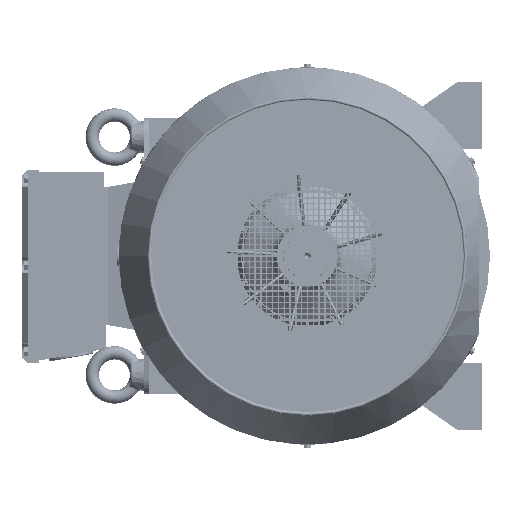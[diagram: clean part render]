
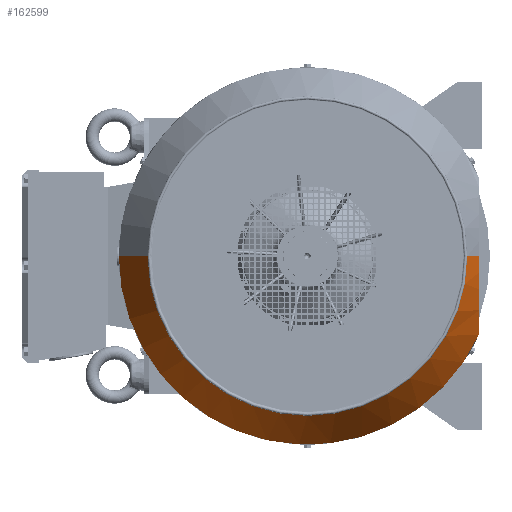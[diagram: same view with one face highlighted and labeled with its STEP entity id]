
A CAD part, left-side view. The second image highlights one B-rep face of the part: STEP entity #162599.
In plain terms, the highlighted conical face has half-angle 30 degrees and reference radius 341 mm.
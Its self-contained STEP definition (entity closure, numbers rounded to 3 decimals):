
#88390 = CARTESIAN_POINT ( 'NONE',  ( 0., 275.627, -310. ) ) ;
#88393 = CARTESIAN_POINT ( 'NONE',  ( 142.06, 221.933, -310. ) ) ;
#88396 = DIRECTION ( 'NONE',  ( 0., 0., -1. ) ) ;
#88398 = DIRECTION ( 'NONE',  ( 0., -1., 0. ) ) ;
#88400 = CARTESIAN_POINT ( 'NONE',  ( 0., 221.933, 0. ) ) ;
#88403 = AXIS2_PLACEMENT_3D ( 'NONE', #88400, #88398, #88396 ) ;
#88405 = CIRCLE ( 'NONE', #88403, 341. ) ;
#88425 = CARTESIAN_POINT ( 'NONE',  ( 0., 221.933, 341. ) ) ;
#88429 = DIRECTION ( 'NONE',  ( 0., -0.866, 0.5 ) ) ;
#88431 = VECTOR ( 'NONE', #88429, 1000. ) ;
#88434 = CARTESIAN_POINT ( 'NONE',  ( 0., 221.933, 341. ) ) ;
#88436 = LINE ( 'NONE', #88434, #88431 ) ;
#88480 = CARTESIAN_POINT ( 'NONE',  ( 0., 312., -289. ) ) ;
#88482 = DIRECTION ( 'NONE',  ( 0., 0., -1. ) ) ;
#88484 = DIRECTION ( 'NONE',  ( 0., -1., 0. ) ) ;
#88487 = CARTESIAN_POINT ( 'NONE',  ( 0., 312., 0. ) ) ;
#88488 = AXIS2_PLACEMENT_3D ( 'NONE', #88487, #88484, #88482 ) ;
#88490 = CIRCLE ( 'NONE', #88488, 289. ) ;
#88543 = CARTESIAN_POINT ( 'NONE',  ( 0., 312., 289. ) ) ;
#88938 = DIRECTION ( 'NONE',  ( 0., 0., -1. ) ) ;
#88940 = DIRECTION ( 'NONE',  ( 0., -1., 0. ) ) ;
#88943 = CARTESIAN_POINT ( 'NONE',  ( 0., 221.933, 0. ) ) ;
#88944 = AXIS2_PLACEMENT_3D ( 'NONE', #88943, #88940, #88938 ) ;
#88955 = CONICAL_SURFACE ( 'NONE', #88944, 341., 0.524 ) ;
#88957 = FACE_OUTER_BOUND ( 'NONE', #162604, .T. ) ;
#89424 = DIRECTION ( 'NONE',  ( 0., -0.866, -0.5 ) ) ;
#89426 = VECTOR ( 'NONE', #89424, 1000. ) ;
#89428 = CARTESIAN_POINT ( 'NONE',  ( 0., 221.933, -341. ) ) ;
#89431 = LINE ( 'NONE', #89428, #89426 ) ;
#89437 = CARTESIAN_POINT ( 'NONE',  ( 0., 275.627, -310. ) ) ;
#89439 = CARTESIAN_POINT ( 'NONE',  ( 12.784, 275.627, -310. ) ) ;
#89441 = CARTESIAN_POINT ( 'NONE',  ( 25.535, 274.252, -310. ) ) ;
#89443 = CARTESIAN_POINT ( 'NONE',  ( 39.842, 271.218, -310. ) ) ;
#89446 = CARTESIAN_POINT ( 'NONE',  ( 41.43, 270.86, -310. ) ) ;
#89448 = CARTESIAN_POINT ( 'NONE',  ( 44.588, 270.108, -310. ) ) ;
#89450 = CARTESIAN_POINT ( 'NONE',  ( 46.16, 269.714, -310. ) ) ;
#89453 = CARTESIAN_POINT ( 'NONE',  ( 50.852, 268.477, -310. ) ) ;
#89455 = CARTESIAN_POINT ( 'NONE',  ( 53.95, 267.581, -310. ) ) ;
#89457 = CARTESIAN_POINT ( 'NONE',  ( 63.164, 264.695, -310. ) ) ;
#89460 = CARTESIAN_POINT ( 'NONE',  ( 69.196, 262.504, -310. ) ) ;
#89463 = CARTESIAN_POINT ( 'NONE',  ( 81.071, 257.659, -310. ) ) ;
#89466 = CARTESIAN_POINT ( 'NONE',  ( 86.913, 255.005, -310. ) ) ;
#89469 = CARTESIAN_POINT ( 'NONE',  ( 98.43, 249.292, -310. ) ) ;
#89471 = CARTESIAN_POINT ( 'NONE',  ( 104.106, 246.232, -310. ) ) ;
#89474 = CARTESIAN_POINT ( 'NONE',  ( 111.108, 242.186, -310. ) ) ;
#89476 = CARTESIAN_POINT ( 'NONE',  ( 112.505, 241.365, -310. ) ) ;
#89478 = CARTESIAN_POINT ( 'NONE',  ( 115.285, 239.704, -310. ) ) ;
#89481 = CARTESIAN_POINT ( 'NONE',  ( 116.667, 238.865, -310. ) ) ;
#89483 = CARTESIAN_POINT ( 'NONE',  ( 120.792, 236.323, -310. ) ) ;
#89486 = CARTESIAN_POINT ( 'NONE',  ( 123.512, 234.595, -310. ) ) ;
#89513 = CARTESIAN_POINT ( 'NONE',  ( 131.592, 229.318, -310. ) ) ;
#89514 = CARTESIAN_POINT ( 'NONE',  ( 136.871, 225.677, -310. ) ) ;
#89518 = CARTESIAN_POINT ( 'NONE',  ( 142.06, 221.933, -310. ) ) ;
#89525 = B_SPLINE_CURVE_WITH_KNOTS ( 'NONE', 3,
 ( #89518, #89514, #89513, #89486, #89483, #89481, #89478, #89476, #89474, #89471, #89469, #89466, #89463, #89460, #89457, #89455, #89453, #89450, #89448, #89446, #89443, #89441, #89439, #89437 ),
 .UNSPECIFIED., .F., .F.,
 ( 4, 2, 2, 2, 2, 2, 2, 2, 2, 2, 2, 4 ),
 ( 0.159, 0.178, 0.188, 0.192, 0.197, 0.216, 0.235, 0.255, 0.264, 0.269, 0.274, 0.312 ),
 .UNSPECIFIED. ) ;
#162423 = EDGE_CURVE ( 'NONE', #162464, #162425, #88436, .T. ) ;
#162425 = VERTEX_POINT ( 'NONE', #88425 ) ;
#162430 = ORIENTED_EDGE ( 'NONE', *, *, #162433, .F. ) ;
#162433 = EDGE_CURVE ( 'NONE', #162438, #162425, #88405, .T. ) ;
#162438 = VERTEX_POINT ( 'NONE', #88393 ) ;
#162440 = VERTEX_POINT ( 'NONE', #88390 ) ;
#162464 = VERTEX_POINT ( 'NONE', #88543 ) ;
#162484 = EDGE_CURVE ( 'NONE', #162486, #162464, #88490, .T. ) ;
#162486 = VERTEX_POINT ( 'NONE', #88480 ) ;
#162599 = ADVANCED_FACE ( 'NONE', ( #88957 ), #88955, .T. ) ;
#162604 = EDGE_LOOP ( 'NONE', ( #162608, #162622, #162430, #162708, #162713 ) ) ;
#162608 = ORIENTED_EDGE ( 'NONE', *, *, #162484, .T. ) ;
#162622 = ORIENTED_EDGE ( 'NONE', *, *, #162423, .T. ) ;
#162708 = ORIENTED_EDGE ( 'NONE', *, *, #162709, .T. ) ;
#162709 = EDGE_CURVE ( 'NONE', #162438, #162440, #89525, .T. ) ;
#162713 = ORIENTED_EDGE ( 'NONE', *, *, #162717, .F. ) ;
#162717 = EDGE_CURVE ( 'NONE', #162486, #162440, #89431, .T. ) ;
